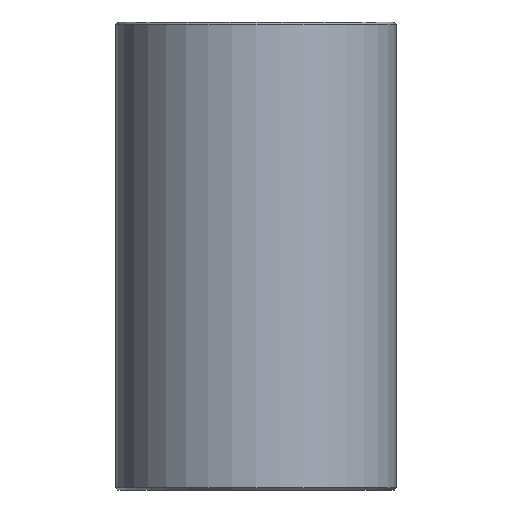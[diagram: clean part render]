
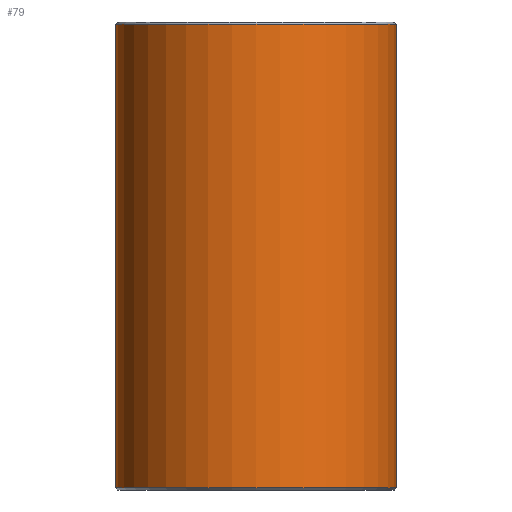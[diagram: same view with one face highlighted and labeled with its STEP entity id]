
A CAD part, front view. The second image highlights one B-rep face of the part: STEP entity #79.
In plain terms, the highlighted cylindrical face has radius 12 mm (diameter 24 mm), a full revolution.
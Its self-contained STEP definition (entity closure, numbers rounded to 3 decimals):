
#79=ADVANCED_FACE('',(#96,#97),#98,.T.);
#96=FACE_OUTER_BOUND('',#120,.T.);
#97=FACE_OUTER_BOUND('',#121,.T.);
#98=CYLINDRICAL_SURFACE('',#122,12.0);
#120=EDGE_LOOP('',(#152));
#121=EDGE_LOOP('',(#153));
#122=AXIS2_PLACEMENT_3D('',#154,#155,#156);
#152=ORIENTED_EDGE('',*,*,#178,.T.);
#153=ORIENTED_EDGE('',*,*,#177,.T.);
#154=CARTESIAN_POINT('',(0.,0.0,40.0));
#155=DIRECTION('',(0.0,0.0,-1.0));
#156=DIRECTION('',(-1.0,0.0,0.0));
#177=EDGE_CURVE('',#190,#190,#191,.T.);
#178=EDGE_CURVE('',#192,#192,#193,.F.);
#190=VERTEX_POINT('',#206);
#191=CIRCLE('',#207,12.0);
#192=VERTEX_POINT('',#208);
#193=CIRCLE('',#209,12.0);
#206=CARTESIAN_POINT('',(12.0,0.0,0.2));
#207=AXIS2_PLACEMENT_3D('',#227,#228,#229);
#208=CARTESIAN_POINT('',(12.0,0.,39.8));
#209=AXIS2_PLACEMENT_3D('',#230,#231,#232);
#227=CARTESIAN_POINT('',(0.,0.0,0.2));
#228=DIRECTION('',(0.0,0.0,1.0));
#229=DIRECTION('',(1.0,0.0,0.0));
#230=CARTESIAN_POINT('',(0.,0.0,39.8));
#231=DIRECTION('',(0.0,0.0,1.0));
#232=DIRECTION('',(1.0,0.0,0.0));
